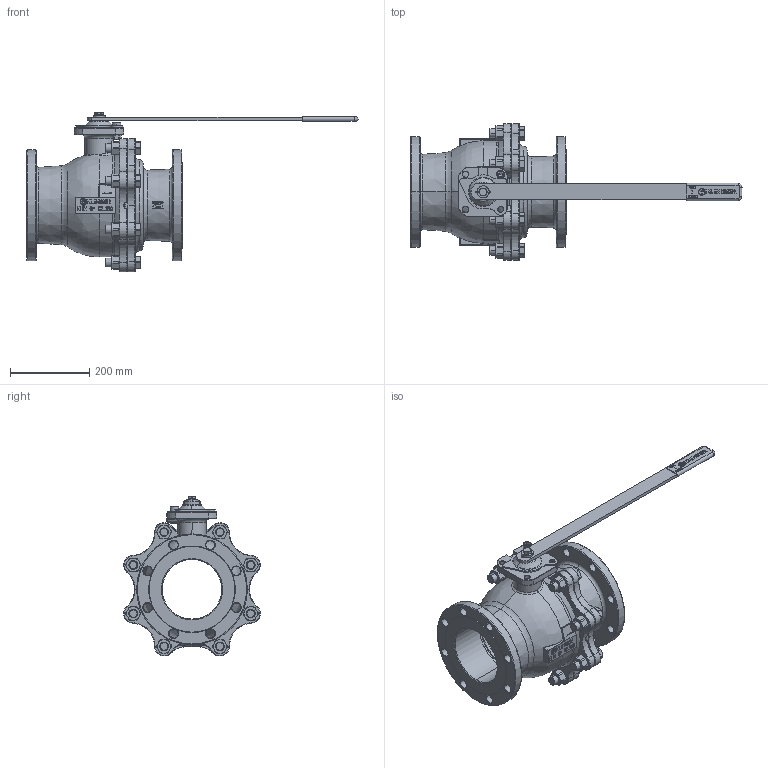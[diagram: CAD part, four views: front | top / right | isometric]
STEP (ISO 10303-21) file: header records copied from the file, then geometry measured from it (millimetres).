
FILE_DESCRIPTION((''),'2;1');
FILE_NAME('KHEFS-6-VFS-6-C150PHH','2015-08-10T',('mahrhauserh'),('RAND'),'PRO/ENGINEER BY PARAMETRIC TECHNOLOGY CORPORATION, 2013410','PRO/ENGINEER BY PARAMETRIC TECHNOLOGY CORPORATION, 2013410','');
FILE_SCHEMA(('CONFIG_CONTROL_DESIGN'));
Products named in the file (1): KHEFS-6-VFS-6-C150PHH
Bounding box: 835.95 x 343.64 x 402.5 mm (x, y, z)
Volume: 8774598.1 mm3; surface area: 1576066.7 mm2
Topology: 1 solids, 3 shells, 3277 faces, 8521 edges, 5398 vertices
Faces by surface type: plane 1957, cylinder 509, torus 390, cone 266, bspline 133, sphere 22
Entity records: 122087 total; most frequent: CARTESIAN_POINT 41665, ORIENTED_EDGE 17030, DIRECTION 16436, EDGE_CURVE 8515, VECTOR 5602, LINE 5602, AXIS2_PLACEMENT_3D 5417, VERTEX_POINT 5398
